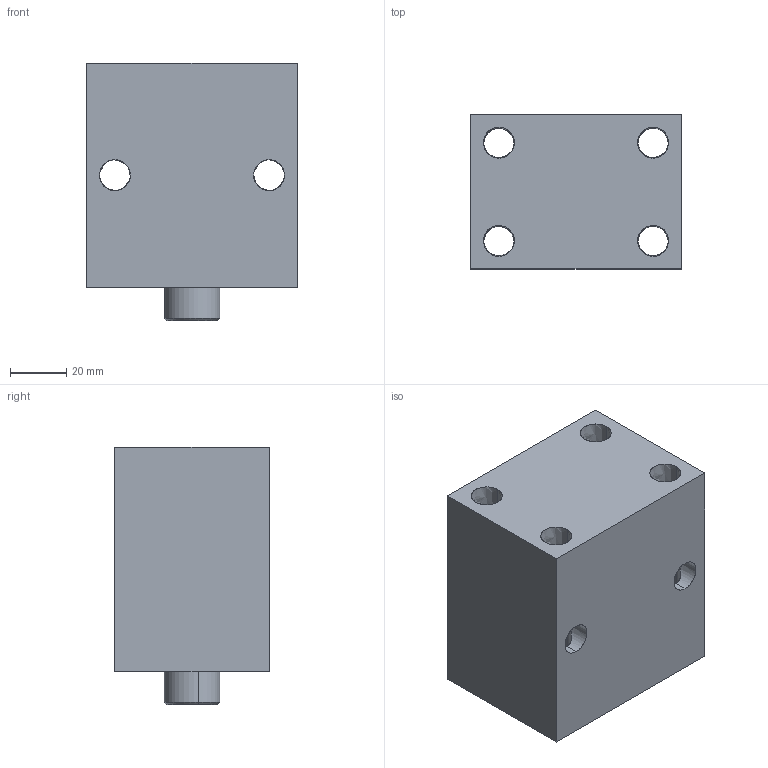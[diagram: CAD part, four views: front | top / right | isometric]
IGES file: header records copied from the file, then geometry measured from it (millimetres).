
Start section: SolidWorks IGES file using analytic representation for surfaces
Global section: file name: D:\karuppas\Clasp\3D model\Block cylinder B01C-Female thread\B01C-225F\Block cylinder_B01C-225F.IGS; native system: SolidWorks 2017; preprocessor: SolidWorks 2017; author: pc; date: 220709.235737; units: millimetre
Bounding box: 75 x 55 x 92 mm (x, y, z)
Surface area: 51416.1 mm2 (no closed solid volume)
Topology: 0 solids, 0 shells, 340 faces, 5162 edges, 5156 vertices
Faces by surface type: bspline 288, revolution 52
